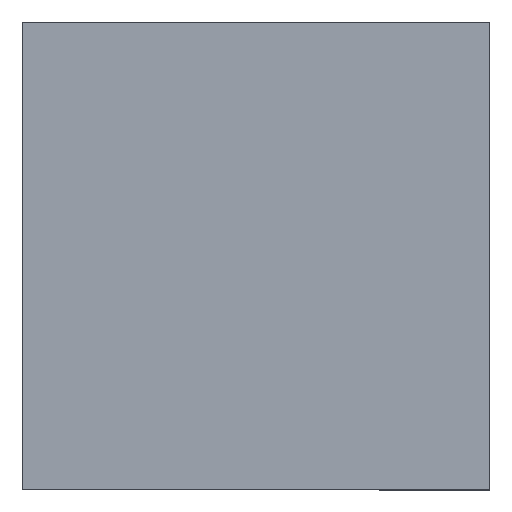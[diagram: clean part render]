
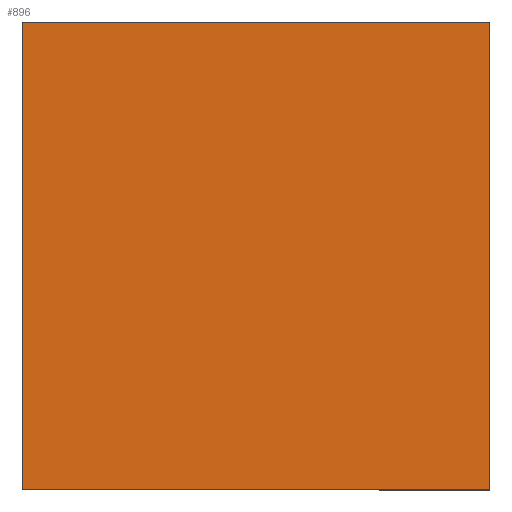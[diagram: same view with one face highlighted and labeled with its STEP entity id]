
A CAD part, top view. The second image highlights one B-rep face of the part: STEP entity #896.
In plain terms, the highlighted planar face has unit normal (0, 0, 1).
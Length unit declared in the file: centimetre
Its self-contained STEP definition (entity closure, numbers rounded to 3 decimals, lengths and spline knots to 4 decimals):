
#12 = CARTESIAN_POINT ( 'NONE',  ( 0., 0., 1000. ) ) ;
#14 = VERTEX_POINT ( 'NONE', #306 ) ;
#34 = CARTESIAN_POINT ( 'NONE',  ( 1000., 1000., 1000. ) ) ;
#68 = VECTOR ( 'NONE', #817, 100. ) ;
#106 = LINE ( 'NONE', #580, #68 ) ;
#139 = CARTESIAN_POINT ( 'NONE',  ( 0., 1000., 1000. ) ) ;
#174 = CARTESIAN_POINT ( 'NONE',  ( 0., 0., 1000. ) ) ;
#212 = ORIENTED_EDGE ( 'NONE', *, *, #511, .T. ) ;
#229 = EDGE_CURVE ( 'NONE', #657, #14, #340, .T. ) ;
#239 = ORIENTED_EDGE ( 'NONE', *, *, #592, .T. ) ;
#272 = AXIS2_PLACEMENT_3D ( 'NONE', #997, #695, #314 ) ;
#306 = CARTESIAN_POINT ( 'NONE',  ( 1000., 0., 1000. ) ) ;
#314 = DIRECTION ( 'NONE',  ( 1., 0., 0. ) ) ;
#340 = LINE ( 'NONE', #12, #599 ) ;
#380 = PLANE ( 'NONE',  #272 ) ;
#384 = VECTOR ( 'NONE', #420, 100. ) ;
#398 = ORIENTED_EDGE ( 'NONE', *, *, #229, .T. ) ;
#420 = DIRECTION ( 'NONE',  ( -1., 0., 0. ) ) ;
#445 = VECTOR ( 'NONE', #616, 100. ) ;
#511 = EDGE_CURVE ( 'NONE', #512, #765, #576, .T. ) ;
#512 = VERTEX_POINT ( 'NONE', #34 ) ;
#576 = LINE ( 'NONE', #747, #384 ) ;
#580 = CARTESIAN_POINT ( 'NONE',  ( 0., 1000., 1000. ) ) ;
#592 = EDGE_CURVE ( 'NONE', #14, #512, #638, .T. ) ;
#599 = VECTOR ( 'NONE', #609, 100. ) ;
#609 = DIRECTION ( 'NONE',  ( 1., 0., 0. ) ) ;
#616 = DIRECTION ( 'NONE',  ( 0., 1., 0. ) ) ;
#638 = LINE ( 'NONE', #698, #445 ) ;
#644 = EDGE_LOOP ( 'NONE', ( #862, #398, #239, #212 ) ) ;
#657 = VERTEX_POINT ( 'NONE', #174 ) ;
#677 = EDGE_CURVE ( 'NONE', #765, #657, #106, .T. ) ;
#695 = DIRECTION ( 'NONE',  ( 0., 0., 1. ) ) ;
#698 = CARTESIAN_POINT ( 'NONE',  ( 1000., 1000., 1000. ) ) ;
#747 = CARTESIAN_POINT ( 'NONE',  ( 0., 1000., 1000. ) ) ;
#765 = VERTEX_POINT ( 'NONE', #139 ) ;
#817 = DIRECTION ( 'NONE',  ( 0., -1., 0. ) ) ;
#862 = ORIENTED_EDGE ( 'NONE', *, *, #677, .T. ) ;
#896 = ADVANCED_FACE ( 'NONE', ( #930 ), #380, .T. ) ;
#930 = FACE_OUTER_BOUND ( 'NONE', #644, .T. ) ;
#997 = CARTESIAN_POINT ( 'NONE',  ( 0., 0., 1000. ) ) ;
